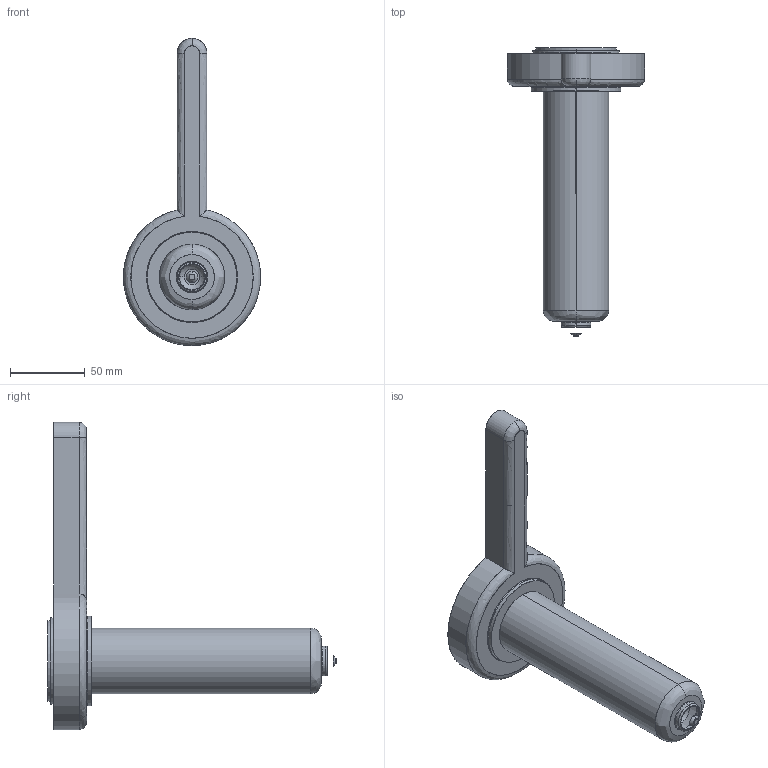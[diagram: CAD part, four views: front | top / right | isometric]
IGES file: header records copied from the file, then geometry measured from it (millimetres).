
Start section: SolidWorks IGES file using analytic representation for surfaces
Global section: file name: C:\Documents and Settings\ws-20\Desktop\TEM\Sede UGEP6007-S-A C-164 L-191 Ød-4.0.IGS; native system: SolidWorks 2012; preprocessor: SolidWorks 2012; author: ws-20; date: 120427.103227; units: millimetre
Bounding box: 91.98 x 193.42 x 206 mm (x, y, z)
Surface area: 50315.4 mm2 (no closed solid volume)
Topology: 0 solids, 0 shells, 44 faces, 984 edges, 984 vertices
Faces by surface type: revolution 27, bspline 17
